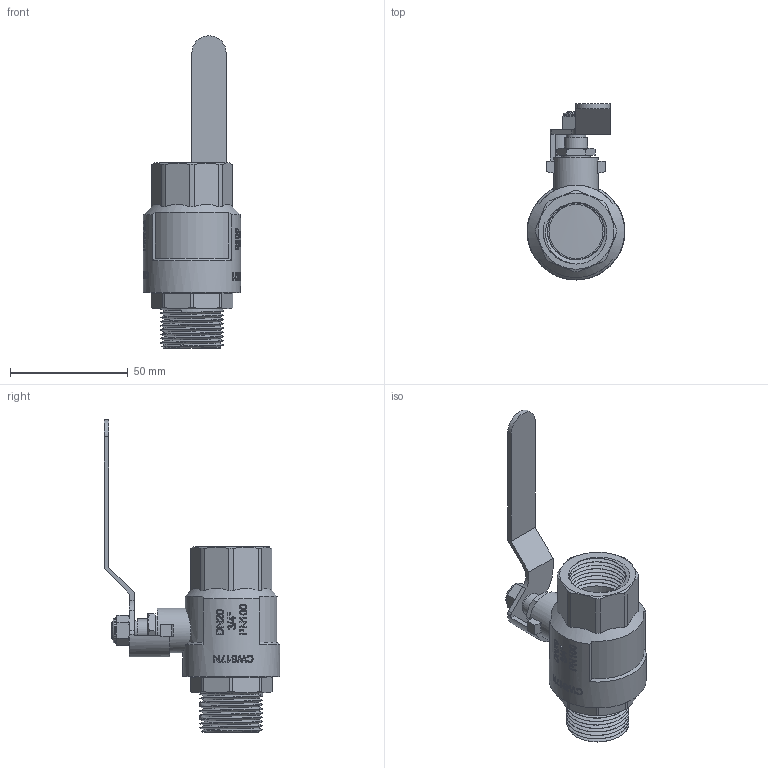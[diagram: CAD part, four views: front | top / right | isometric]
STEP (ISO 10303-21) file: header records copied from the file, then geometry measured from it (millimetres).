
FILE_DESCRIPTION(/* description */ (''),/* implementation_level */ '2;1');
FILE_NAME(/* name */ 'F:\Артём\00000\Работа удаленка\0\B\VT.315.N.05.stp',/* time_stamp */ '2021-02-03T15:48:34+03:00',/* author */ ('almis'),/* organization */ (''),/* preprocessor_version */ 'ST-DEVELOPER v18',/* originating_system */ 'Autodesk Inventor 2020',/* authorisation */ '');
FILE_SCHEMA (('AUTOMOTIVE_DESIGN { 1 0 10303 214 3 1 1 }'));
Length unit declared in the file: millimetre
Products named in the file (1): VT.314_ВВ_3%4
Bounding box: 41.44 x 74.6 x 132.72 mm (x, y, z)
Volume: 53391 mm3; surface area: 25070.4 mm2
Topology: 1 solids, 1 shells, 604 faces, 1618 edges, 1076 vertices
Faces by surface type: bspline 241, plane 208, cylinder 130, cone 22, torus 3
Full cylindrical faces by diameter (mm): 8 x1, 8.297 x1, 9.797 x1, 10.392 x1, 12.167 x1, 19 x1, 23 x1, 23.037 x9, 24.2 x9, 26.637 x10, 27.8 x8, 41.237 x1
Entity records: 29353 total; most frequent: CARTESIAN_POINT 15945, ORIENTED_EDGE 3236, DIRECTION 1982, EDGE_CURVE 1618, VERTEX_POINT 1076, LINE 716, VECTOR 716, EDGE_LOOP 668
